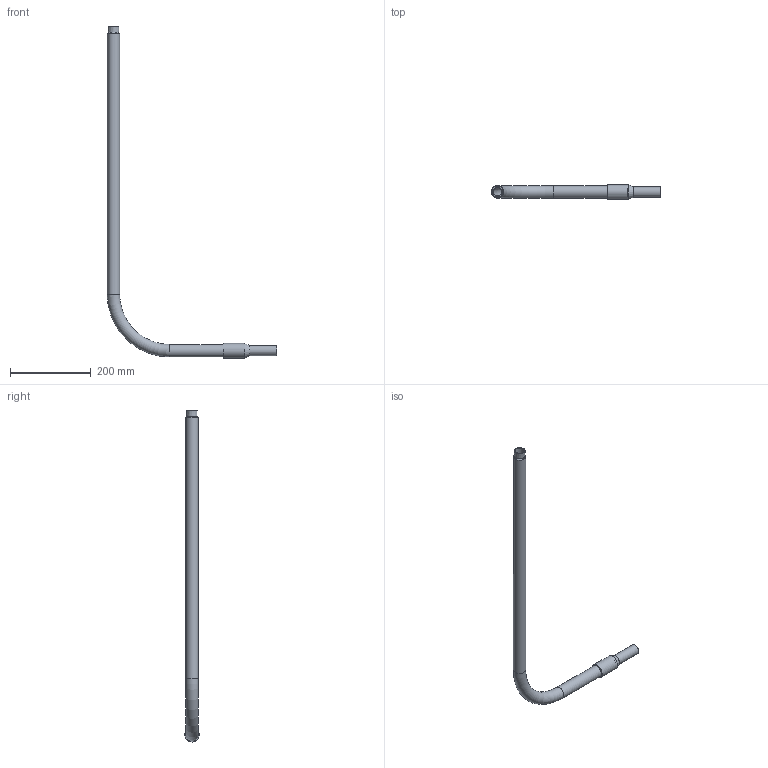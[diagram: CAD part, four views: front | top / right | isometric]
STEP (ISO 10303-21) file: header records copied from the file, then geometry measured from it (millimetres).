
FILE_DESCRIPTION(/* description */ ('Unknown'),/* implementation_level */ '2;1');
FILE_NAME(/* name */ 'RTFZCRP025C',/* time_stamp */ '2022-07-14T10:59:03+02:00',/* author */ ('Unknown'),/* organization */ ('Unknown'),/* preprocessor_version */ 'ST-DEVELOPER v18.102',/* originating_system */ 'Solid Edge',/* authorisation */ 'Unknown');
FILE_SCHEMA (('AUTOMOTIVE_DESIGN {1 0 10303 214 3 1 1}'));
Length unit declared in the file: millimetre
Products named in the file (3): RTFZCRP025C; Parte PE; Parte Acciaio_oa_0
Assembly tree (2 placements, depth 2):
  RTFZCRP025C
    Parte PE
    Parte Acciaio_oa_0
Bounding box: 420 x 36 x 823 mm (x, y, z)
Volume: 421989.6 mm3; surface area: 200562.4 mm2
Topology: 2 solids, 2 shells, 20 faces, 37 edges, 23 vertices
Faces by surface type: cylinder 9, plane 6, cone 3, torus 2
Full cylindrical faces by diameter (mm): 19 x1, 22 x2, 25 x1, 30.3 x2, 30.8 x2, 36 x1
Entity records: 480 total; most frequent: DIRECTION 86, CARTESIAN_POINT 63, AXIS2_PLACEMENT_3D 43, ORIENTED_EDGE 40, EDGE_LOOP 40, FACE_BOUND 40, EDGE_CURVE 20, VERTEX_POINT 20
